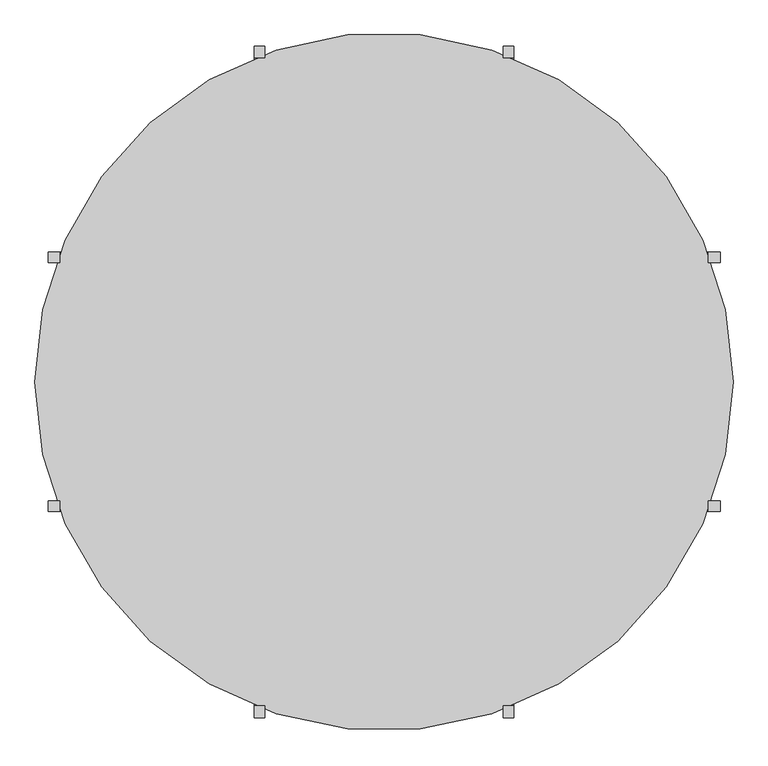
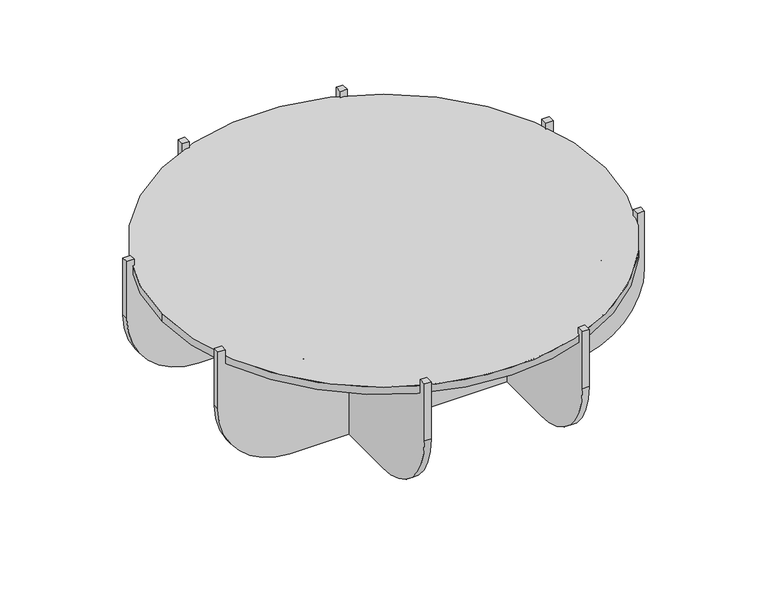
"""IFC4 building model written with IfcOpenShell, lengths in millimetres: furniture geometry, Lundbergs Möbler - Funghi Piccolo - Coffee Table - Round - Ø120 - H35 : Lundbergs Möbler - Funghi Piccolo - Coffee Table - Round - Ø120 - H35."""

from ifc_helpers import new_model, si_unit, point, frame, frame_2d, origin, origin_2d, place, context, project, spatial, polyline, circle_curve, trimmed, segment, composite_curve, outline, extrude, source, transform, mapped, element, save


def furniture_b5d81c60(model_context):
    return source(origin(), model_context, "Body", "SweptSolid", [
        extrude(outline(composite_curve([segment(trimmed(circle_curve(origin_2d(), 600.0), [point((-600.0, 0.0))], [point((600.0, 0.0))], False, "CARTESIAN"), True, "CONTINUOUS"), segment(trimmed(circle_curve(origin_2d(), 600.0), [point((600.0, 0.0))], [point((-600.0, 0.0))], False, "CARTESIAN"), True, "CONTINUOUS")], self_intersect=False)), frame((0.0, 0.0, 320.0), z_axis=(0.0, 0.0, 1.0), x_axis=(1.0, 0.0, 0.0)), (0.0, 0.0, 1.0), 21.0),
        extrude(outline(composite_curve([segment(trimmed(circle_curve(frame_2d((-284.5, 318.3870185)), 8.5), [point((-284.5, 309.8870185))], [point((-293.0, 318.3870185))], False, "CARTESIAN"), True, "CONTINUOUS"), segment(polyline([(-293.0, 318.3870185), (-293.0, 320.0), (293.0, 320.0), (293.0, 318.3870185)]), True, "CONTINUOUS"), segment(trimmed(circle_curve(frame_2d((284.5, 318.3870185)), 8.5), [point((293.0, 318.3870185))], [point((284.5, 309.8870185))], False, "CARTESIAN"), True, "CONTINUOUS"), segment(polyline([(284.5, 309.8870185), (-284.5, 309.8870185)]), True, "CONTINUOUS")], self_intersect=False)), frame((382.4999892, 0.0, 0.0), z_axis=(1.0, 0.0, 0.0), x_axis=(0.0, 1.0, 0.0)), (0.0, 0.0, 1.0), 40.0000216),
        extrude(outline(composite_curve([segment(trimmed(circle_curve(frame_2d((318.3870185, 284.5)), 8.5), [point((309.8870185, 284.5))], [point((318.3870185, 293.0))], False, "CARTESIAN"), True, "CONTINUOUS"), segment(polyline([(318.3870185, 293.0), (320.0, 293.0), (320.0, -293.0), (318.3870185, -293.0)]), True, "CONTINUOUS"), segment(trimmed(circle_curve(frame_2d((318.3870185, -284.5)), 8.5), [point((318.3870185, -293.0))], [point((309.8870185, -284.5))], False, "CARTESIAN"), True, "CONTINUOUS"), segment(polyline([(309.8870185, -284.5), (309.8870185, 284.5)]), True, "CONTINUOUS")], self_intersect=False)), frame((0.0, -422.5000108, 0.0), z_axis=(0.0, 1.0, 0.0), x_axis=(0.0, 0.0, 1.0)), (0.0, 0.0, 1.0), 40.0000216),
        extrude(outline(composite_curve([segment(trimmed(circle_curve(frame_2d((318.3870185, 284.5)), 8.5), [point((309.8870185, 284.5))], [point((318.3870185, 293.0))], False, "CARTESIAN"), True, "CONTINUOUS"), segment(polyline([(318.3870185, 293.0), (320.0, 293.0), (320.0, -293.0), (318.3870185, -293.0)]), True, "CONTINUOUS"), segment(trimmed(circle_curve(frame_2d((318.3870185, -284.5)), 8.5), [point((318.3870185, -293.0))], [point((309.8870185, -284.5))], False, "CARTESIAN"), True, "CONTINUOUS"), segment(polyline([(309.8870185, -284.5), (309.8870185, 284.5)]), True, "CONTINUOUS")], self_intersect=False)), frame((0.0, 382.4999892, 0.0), z_axis=(0.0, 1.0, 0.0), x_axis=(0.0, 0.0, 1.0)), (0.0, 0.0, 1.0), 40.0000216),
        extrude(outline(composite_curve([segment(trimmed(circle_curve(frame_2d((-284.5, 318.3870185)), 8.5), [point((-284.5, 309.8870185))], [point((-293.0, 318.3870185))], False, "CARTESIAN"), True, "CONTINUOUS"), segment(polyline([(-293.0, 318.3870185), (-293.0, 320.0), (293.0, 320.0), (293.0, 318.3870185)]), True, "CONTINUOUS"), segment(trimmed(circle_curve(frame_2d((284.5, 318.3870185)), 8.5), [point((293.0, 318.3870185))], [point((284.5, 309.8870185))], False, "CARTESIAN"), True, "CONTINUOUS"), segment(polyline([(284.5, 309.8870185), (-284.5, 309.8870185)]), True, "CONTINUOUS")], self_intersect=False)), frame((-422.5000108, 0.0, 0.0), z_axis=(1.0, 0.0, 0.0), x_axis=(0.0, 1.0, 0.0)), (0.0, 0.0, 1.0), 40.0000216),
        extrude(outline(composite_curve([segment(trimmed(circle_curve(frame_2d((195.0, -382.5)), 195.0), [point((195.0, -577.5))], [point((0.0, -382.5))], False, "CARTESIAN"), True, "CONTINUOUS"), segment(polyline([(0.0, -382.5), (0.0, 382.5)]), True, "CONTINUOUS"), segment(trimmed(circle_curve(frame_2d((195.0, 382.5)), 195.0), [point((0.0, 382.5))], [point((195.0, 577.5))], False, "CARTESIAN"), True, "CONTINUOUS"), segment(polyline([(195.0, 577.5), (359.0, 577.5), (359.0, 557.5), (320.0, 557.5), (320.0, -557.5), (359.0, -557.5), (359.0, -577.5), (195.0, -577.5)]), True, "CONTINUOUS")], self_intersect=False)), frame((0.0, -223.0, 0.0), z_axis=(0.0, 1.0, 0.0), x_axis=(0.0, 0.0, 1.0)), (0.0, 0.0, 1.0), 18.0),
        extrude(outline(composite_curve([segment(trimmed(circle_curve(frame_2d((195.0, -382.5)), 195.0), [point((195.0, -577.5))], [point((0.0, -382.5))], False, "CARTESIAN"), True, "CONTINUOUS"), segment(polyline([(0.0, -382.5), (0.0, 382.5)]), True, "CONTINUOUS"), segment(trimmed(circle_curve(frame_2d((195.0, 382.5)), 195.0), [point((0.0, 382.5))], [point((195.0, 577.5))], False, "CARTESIAN"), True, "CONTINUOUS"), segment(polyline([(195.0, 577.5), (359.0, 577.5), (359.0, 557.5), (320.0, 557.5), (320.0, -557.5), (359.0, -557.5), (359.0, -577.5), (195.0, -577.5)]), True, "CONTINUOUS")], self_intersect=False)), frame((0.0, 205.0, 0.0), z_axis=(0.0, 1.0, 0.0), x_axis=(0.0, 0.0, 1.0)), (0.0, 0.0, 1.0), 18.0),
        extrude(outline(composite_curve([segment(trimmed(circle_curve(frame_2d((382.5, 195.0)), 195.0), [point((577.5, 195.0))], [point((382.5, 0.0))], False, "CARTESIAN"), True, "CONTINUOUS"), segment(polyline([(382.5, 0.0), (-382.5, 0.0)]), True, "CONTINUOUS"), segment(trimmed(circle_curve(frame_2d((-382.5, 195.0)), 195.0), [point((-382.5, 0.0))], [point((-577.5, 195.0))], False, "CARTESIAN"), True, "CONTINUOUS"), segment(polyline([(-577.5, 195.0), (-577.5, 359.0), (-557.5, 359.0), (-557.5, 320.0), (557.5, 320.0), (557.5, 359.0), (577.5, 359.0), (577.5, 195.0)]), True, "CONTINUOUS")], self_intersect=False)), frame((205.0, 0.0, 0.0), z_axis=(1.0, 0.0, 0.0), x_axis=(0.0, 1.0, 0.0)), (0.0, 0.0, 1.0), 18.0),
        extrude(outline(composite_curve([segment(trimmed(circle_curve(frame_2d((382.5, 195.0)), 195.0), [point((577.5, 195.0))], [point((382.5, 0.0))], False, "CARTESIAN"), True, "CONTINUOUS"), segment(polyline([(382.5, 0.0), (-382.5, 0.0)]), True, "CONTINUOUS"), segment(trimmed(circle_curve(frame_2d((-382.5, 195.0)), 195.0), [point((-382.5, 0.0))], [point((-577.5, 195.0))], False, "CARTESIAN"), True, "CONTINUOUS"), segment(polyline([(-577.5, 195.0), (-577.5, 359.0), (-557.5, 359.0), (-557.5, 320.0), (557.5, 320.0), (557.5, 359.0), (577.5, 359.0), (577.5, 195.0)]), True, "CONTINUOUS")], self_intersect=False)), frame((-223.0, 0.0, 0.0), z_axis=(1.0, 0.0, 0.0), x_axis=(0.0, 1.0, 0.0)), (0.0, 0.0, 1.0), 18.0),
    ])


if __name__ == "__main__":
    model = new_model("IFC4")
    model_context = context("Model", 3, world=origin())
    ifc_project = project(units=[si_unit("LENGTHUNIT", "METRE", prefix="MILLI")], contexts=[model_context])
    site = spatial("IfcSite", under=ifc_project)
    building = spatial("IfcBuilding", under=site)
    placement = place(None, origin())
    furniture_shape = furniture_b5d81c60(model_context)
    element("IfcFurniture", 1, ObjectType="Lundbergs Möbler - Funghi Piccolo - Coffee Table - Round - Ø120 - H35 : Lundbergs Möbler - Funghi Piccolo - Coffee Table - Round - Ø120 - H35", at=placement, inside=building, context=model_context, shape_type="MappedRepresentation", body=[
        mapped(furniture_shape, transform((0.0, 0.0, 0.0), x_axis=(1.0, 0.0, 0.0), y_axis=(0.0, 1.0, 0.0), z_axis=(0.0, 0.0, 1.0))),
    ])
    save(model, "model.ifc")
